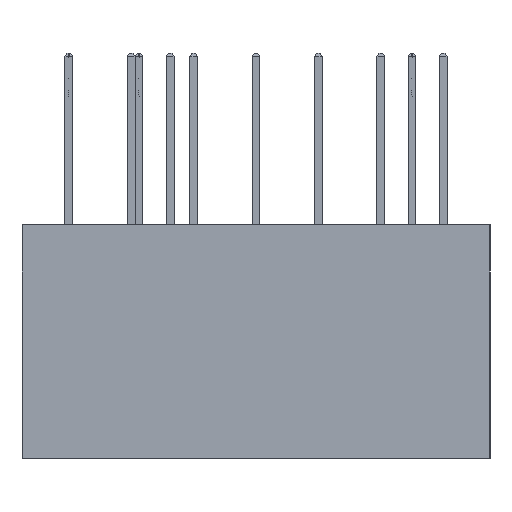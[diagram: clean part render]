
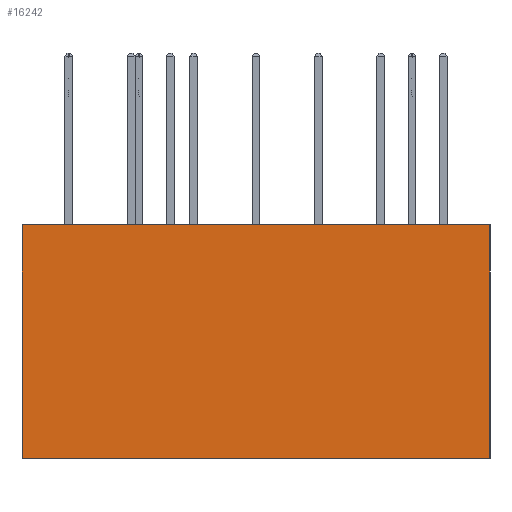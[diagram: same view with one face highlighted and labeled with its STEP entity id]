
A CAD part, left-side view. The second image highlights one B-rep face of the part: STEP entity #16242.
In plain terms, the highlighted planar face has unit normal (-1, 0, 0).
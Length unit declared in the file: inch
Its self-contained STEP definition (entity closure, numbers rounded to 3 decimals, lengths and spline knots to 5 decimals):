
#15477=CARTESIAN_POINT('',(0.0,0.0,0.75));
#15478=VERTEX_POINT('',#15477);
#15479=CARTESIAN_POINT('',(0.,1.5,0.75));
#15480=VERTEX_POINT('',#15479);
#15481=CARTESIAN_POINT('',(0.,0.0,0.75));
#15482=DIRECTION('',(0.0,1.0,0.0));
#15483=VECTOR('',#15482,1.5);
#15484=LINE('',#15481,#15483);
#15485=EDGE_CURVE('',#15478,#15480,#15484,.T.);
#16201=CARTESIAN_POINT('',(0.0,0.0,0.0));
#16202=VERTEX_POINT('',#16201);
#16203=CARTESIAN_POINT('',(0.0,0.0,0.0));
#16204=DIRECTION('',(0.0,0.0,1.0));
#16205=VECTOR('',#16204,0.75);
#16206=LINE('',#16203,#16205);
#16207=EDGE_CURVE('',#16202,#15478,#16206,.T.);
#16219=CARTESIAN_POINT('',(0.0,0.0,0.0));
#16220=DIRECTION('',(-1.0,0.0,0.0));
#16221=DIRECTION('',(0.0,0.0,1.0));
#16222=AXIS2_PLACEMENT_3D('',#16219,#16220,#16221);
#16223=PLANE('',#16222);
#16224=ORIENTED_EDGE('',*,*,#15485,.T.);
#16225=CARTESIAN_POINT('',(0.,1.5,0.0));
#16226=VERTEX_POINT('',#16225);
#16227=CARTESIAN_POINT('',(0.,1.5,0.0));
#16228=DIRECTION('',(0.0,0.0,1.0));
#16229=VECTOR('',#16228,0.75);
#16230=LINE('',#16227,#16229);
#16231=EDGE_CURVE('',#16226,#15480,#16230,.T.);
#16232=ORIENTED_EDGE('',*,*,#16231,.F.);
#16233=CARTESIAN_POINT('',(0.,1.5,0.0));
#16234=DIRECTION('',(0.0,-1.0,0.0));
#16235=VECTOR('',#16234,1.5);
#16236=LINE('',#16233,#16235);
#16237=EDGE_CURVE('',#16226,#16202,#16236,.T.);
#16238=ORIENTED_EDGE('',*,*,#16237,.T.);
#16239=ORIENTED_EDGE('',*,*,#16207,.T.);
#16240=EDGE_LOOP('',(#16224,#16232,#16238,#16239));
#16241=FACE_OUTER_BOUND('',#16240,.T.);
#16242=ADVANCED_FACE('',(#16241),#16223,.T.);
